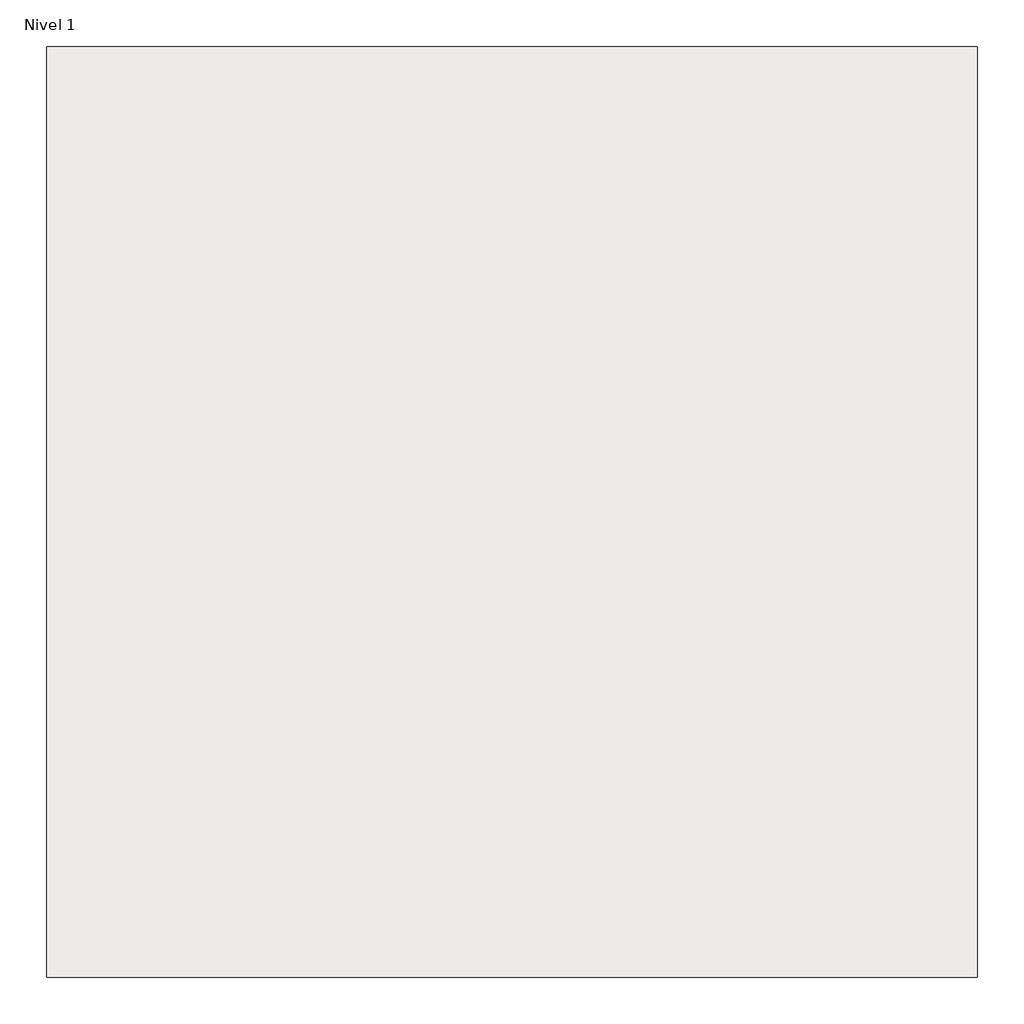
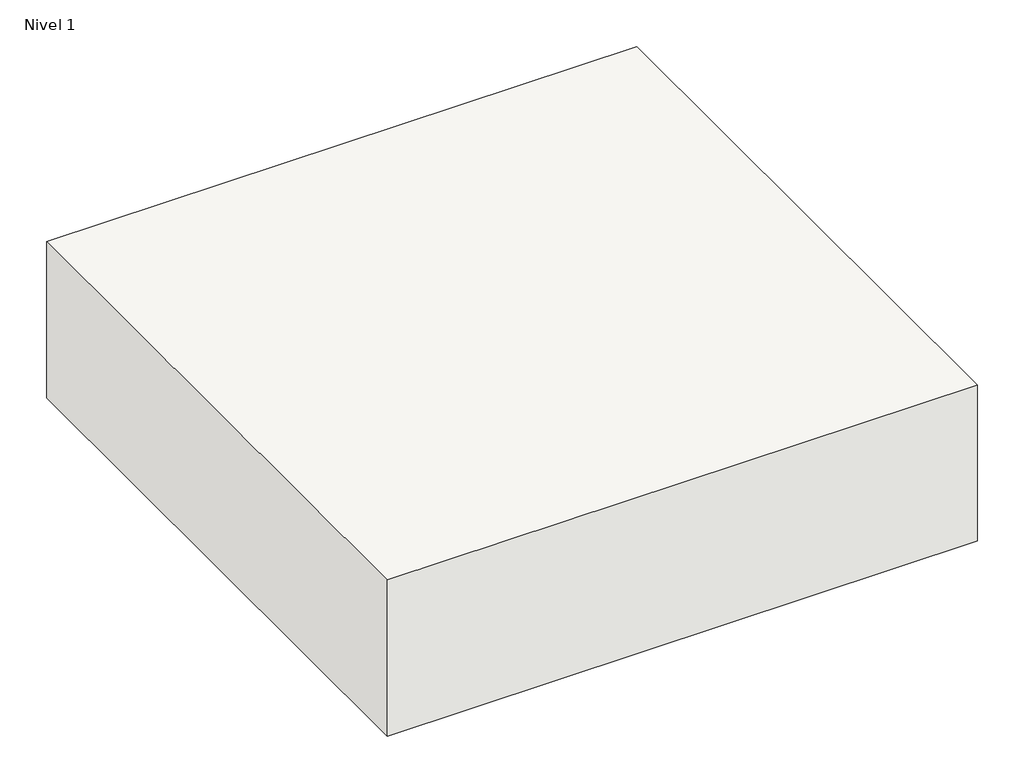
# One storey: 1 slab.
"""IFC4 building model written with IfcOpenShell, lengths in millimetres."""

from ifc_helpers import new_model, si_unit, frame, origin, place, context, project, spatial, polyline, outline, extrude, element, save

model = new_model("IFC4")

# Units and contexts
model_context = context("Model", 3, world=origin())
ifc_project = project(units=[si_unit("LENGTHUNIT", "METRE", prefix="MILLI")], contexts=[model_context])

# Site, building, storey
site = spatial("IfcSite", under=ifc_project)
building = spatial("IfcBuilding", under=site)
storey = spatial("IfcBuildingStorey", under=building, Name="Nivel 1", Elevation=0.0)

# Slab
placement = place(None, origin())
element("IfcSlab", 1, ObjectType="Plancha poliuretano + CC + Acabado cerámico", at=placement, inside=storey, context=model_context, shape_type="SweptSolid", body=[
    extrude(outline(polyline([(-2466.6607633, 3904.5927144), (-3466.6607633, 3904.5927144), (-3466.6607633, 4904.5927144), (-2466.6607633, 4904.5927144), (-2466.6607633, 3904.5927144)])), frame((0.0, 0.0, -280.0), z_axis=(0.0, 0.0, 1.0), x_axis=(1.0, 0.0, 0.0)), (0.0, 0.0, 1.0), 280.0),
])

save(model, "model.ifc")
